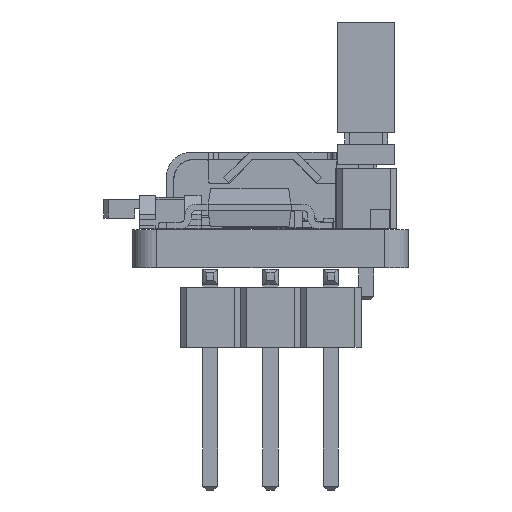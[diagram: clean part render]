
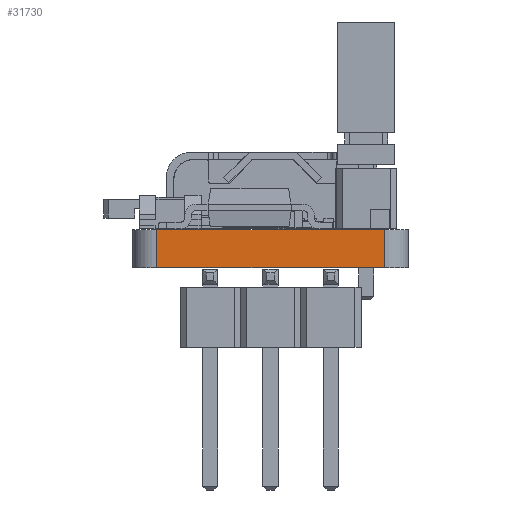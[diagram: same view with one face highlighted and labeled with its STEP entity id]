
A CAD part, left-side view. The second image highlights one B-rep face of the part: STEP entity #31730.
In plain terms, the highlighted planar face has unit normal (-1, 0, 0).
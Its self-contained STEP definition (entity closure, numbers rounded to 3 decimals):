
#31091 = VERTEX_POINT('',#31092);
#31092 = CARTESIAN_POINT('',(121.27,-103.97,0.));
#31099 = EDGE_CURVE('',#31100,#31091,#31102,.T.);
#31100 = VERTEX_POINT('',#31101);
#31101 = CARTESIAN_POINT('',(121.27,-113.565,0.));
#31102 = LINE('',#31103,#31104);
#31103 = CARTESIAN_POINT('',(121.27,-113.565,0.));
#31104 = VECTOR('',#31105,1.);
#31105 = DIRECTION('',(0.,1.,0.));
#31397 = VERTEX_POINT('',#31398);
#31398 = CARTESIAN_POINT('',(121.27,-103.97,1.6));
#31405 = EDGE_CURVE('',#31406,#31397,#31408,.T.);
#31406 = VERTEX_POINT('',#31407);
#31407 = CARTESIAN_POINT('',(121.27,-113.565,1.6));
#31408 = LINE('',#31409,#31410);
#31409 = CARTESIAN_POINT('',(121.27,-113.565,1.6));
#31410 = VECTOR('',#31411,1.);
#31411 = DIRECTION('',(0.,1.,0.));
#31700 = EDGE_CURVE('',#31091,#31397,#31701,.T.);
#31701 = LINE('',#31702,#31703);
#31702 = CARTESIAN_POINT('',(121.27,-103.97,0.));
#31703 = VECTOR('',#31704,1.);
#31704 = DIRECTION('',(0.,0.,1.));
#31730 = ADVANCED_FACE('',(#31731),#31742,.T.);
#31731 = FACE_BOUND('',#31732,.T.);
#31732 = EDGE_LOOP('',(#31733,#31739,#31740,#31741));
#31733 = ORIENTED_EDGE('',*,*,#31734,.T.);
#31734 = EDGE_CURVE('',#31100,#31406,#31735,.T.);
#31735 = LINE('',#31736,#31737);
#31736 = CARTESIAN_POINT('',(121.27,-113.565,0.));
#31737 = VECTOR('',#31738,1.);
#31738 = DIRECTION('',(0.,0.,1.));
#31739 = ORIENTED_EDGE('',*,*,#31405,.T.);
#31740 = ORIENTED_EDGE('',*,*,#31700,.F.);
#31741 = ORIENTED_EDGE('',*,*,#31099,.F.);
#31742 = PLANE('',#31743);
#31743 = AXIS2_PLACEMENT_3D('',#31744,#31745,#31746);
#31744 = CARTESIAN_POINT('',(121.27,-113.565,0.));
#31745 = DIRECTION('',(-1.,0.,0.));
#31746 = DIRECTION('',(0.,1.,0.));
